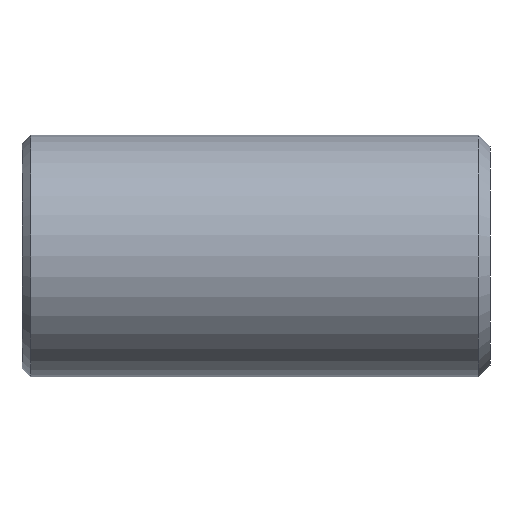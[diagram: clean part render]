
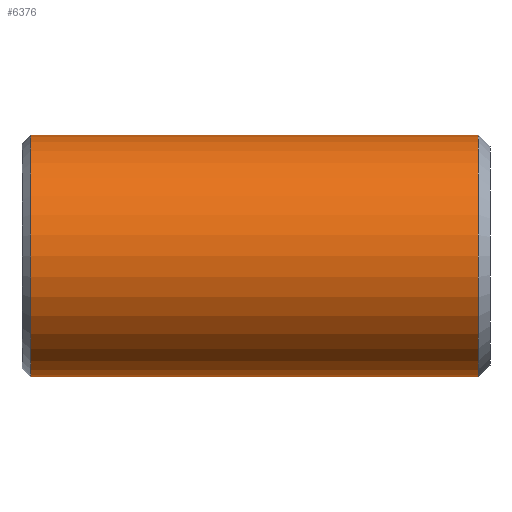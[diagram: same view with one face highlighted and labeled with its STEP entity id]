
A CAD part, front view. The second image highlights one B-rep face of the part: STEP entity #6376.
In plain terms, the highlighted cylindrical face has radius 6.2 mm (diameter 12.4 mm), a full revolution.
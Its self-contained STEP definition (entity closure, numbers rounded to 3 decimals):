
#43 = CONICAL_SURFACE('',#44,5.75,0.785);
#44 = AXIS2_PLACEMENT_3D('',#45,#46,#47);
#45 = CARTESIAN_POINT('',(84.375,0.,0.));
#46 = DIRECTION('',(1.,0.,0.));
#47 = DIRECTION('',(-0.,1.,0.));
#1135 = VERTEX_POINT('',#1136);
#1136 = CARTESIAN_POINT('',(84.825,6.2,0.));
#1157 = EDGE_CURVE('',#1135,#1135,#1158,.T.);
#1158 = SURFACE_CURVE('',#1159,(#1164,#1171),.PCURVE_S1.);
#1159 = CIRCLE('',#1160,6.2);
#1160 = AXIS2_PLACEMENT_3D('',#1161,#1162,#1163);
#1161 = CARTESIAN_POINT('',(84.825,0.,0.));
#1162 = DIRECTION('',(1.,0.,0.));
#1163 = DIRECTION('',(-0.,1.,0.));
#1164 = PCURVE('',#43,#1165);
#1165 = DEFINITIONAL_REPRESENTATION('',(#1166),#1170);
#1166 = LINE('',#1167,#1168);
#1167 = CARTESIAN_POINT('',(0.,0.45));
#1168 = VECTOR('',#1169,1.);
#1169 = DIRECTION('',(1.,0.));
#1170 = ( GEOMETRIC_REPRESENTATION_CONTEXT(2) 
PARAMETRIC_REPRESENTATION_CONTEXT() REPRESENTATION_CONTEXT('2D SPACE',''
  ) );
#1171 = PCURVE('',#1172,#1177);
#1172 = CYLINDRICAL_SURFACE('',#1173,6.2);
#1173 = AXIS2_PLACEMENT_3D('',#1174,#1175,#1176);
#1174 = CARTESIAN_POINT('',(84.825,0.,0.));
#1175 = DIRECTION('',(1.,0.,0.));
#1176 = DIRECTION('',(-0.,1.,0.));
#1177 = DEFINITIONAL_REPRESENTATION('',(#1178),#1182);
#1178 = LINE('',#1179,#1180);
#1179 = CARTESIAN_POINT('',(0.,0.));
#1180 = VECTOR('',#1181,1.);
#1181 = DIRECTION('',(1.,0.));
#1182 = ( GEOMETRIC_REPRESENTATION_CONTEXT(2) 
PARAMETRIC_REPRESENTATION_CONTEXT() REPRESENTATION_CONTEXT('2D SPACE',''
  ) );
#6376 = ADVANCED_FACE('',(#6377),#1172,.T.);
#6377 = FACE_BOUND('',#6378,.T.);
#6378 = EDGE_LOOP('',(#6379,#6380,#6403,#6430));
#6379 = ORIENTED_EDGE('',*,*,#1157,.T.);
#6380 = ORIENTED_EDGE('',*,*,#6381,.T.);
#6381 = EDGE_CURVE('',#1135,#6382,#6384,.T.);
#6382 = VERTEX_POINT('',#6383);
#6383 = CARTESIAN_POINT('',(107.775,6.2,0.));
#6384 = SEAM_CURVE('',#6385,(#6389,#6396),.PCURVE_S1.);
#6385 = LINE('',#6386,#6387);
#6386 = CARTESIAN_POINT('',(84.825,6.2,0.));
#6387 = VECTOR('',#6388,1.);
#6388 = DIRECTION('',(1.,0.,0.));
#6389 = PCURVE('',#1172,#6390);
#6390 = DEFINITIONAL_REPRESENTATION('',(#6391),#6395);
#6391 = LINE('',#6392,#6393);
#6392 = CARTESIAN_POINT('',(0.,0.));
#6393 = VECTOR('',#6394,1.);
#6394 = DIRECTION('',(0.,1.));
#6395 = ( GEOMETRIC_REPRESENTATION_CONTEXT(2) 
PARAMETRIC_REPRESENTATION_CONTEXT() REPRESENTATION_CONTEXT('2D SPACE',''
  ) );
#6396 = PCURVE('',#1172,#6397);
#6397 = DEFINITIONAL_REPRESENTATION('',(#6398),#6402);
#6398 = LINE('',#6399,#6400);
#6399 = CARTESIAN_POINT('',(6.283,0.));
#6400 = VECTOR('',#6401,1.);
#6401 = DIRECTION('',(0.,1.));
#6402 = ( GEOMETRIC_REPRESENTATION_CONTEXT(2) 
PARAMETRIC_REPRESENTATION_CONTEXT() REPRESENTATION_CONTEXT('2D SPACE',''
  ) );
#6403 = ORIENTED_EDGE('',*,*,#6404,.F.);
#6404 = EDGE_CURVE('',#6382,#6382,#6405,.T.);
#6405 = SURFACE_CURVE('',#6406,(#6411,#6418),.PCURVE_S1.);
#6406 = CIRCLE('',#6407,6.2);
#6407 = AXIS2_PLACEMENT_3D('',#6408,#6409,#6410);
#6408 = CARTESIAN_POINT('',(107.775,0.,0.));
#6409 = DIRECTION('',(1.,0.,0.));
#6410 = DIRECTION('',(-0.,1.,0.));
#6411 = PCURVE('',#1172,#6412);
#6412 = DEFINITIONAL_REPRESENTATION('',(#6413),#6417);
#6413 = LINE('',#6414,#6415);
#6414 = CARTESIAN_POINT('',(0.,22.95));
#6415 = VECTOR('',#6416,1.);
#6416 = DIRECTION('',(1.,0.));
#6417 = ( GEOMETRIC_REPRESENTATION_CONTEXT(2) 
PARAMETRIC_REPRESENTATION_CONTEXT() REPRESENTATION_CONTEXT('2D SPACE',''
  ) );
#6418 = PCURVE('',#6419,#6424);
#6419 = CONICAL_SURFACE('',#6420,6.2,0.785);
#6420 = AXIS2_PLACEMENT_3D('',#6421,#6422,#6423);
#6421 = CARTESIAN_POINT('',(107.775,0.,0.));
#6422 = DIRECTION('',(-1.,-0.,-0.));
#6423 = DIRECTION('',(-0.,1.,0.));
#6424 = DEFINITIONAL_REPRESENTATION('',(#6425),#6429);
#6425 = LINE('',#6426,#6427);
#6426 = CARTESIAN_POINT('',(-0.,-0.));
#6427 = VECTOR('',#6428,1.);
#6428 = DIRECTION('',(-1.,-0.));
#6429 = ( GEOMETRIC_REPRESENTATION_CONTEXT(2) 
PARAMETRIC_REPRESENTATION_CONTEXT() REPRESENTATION_CONTEXT('2D SPACE',''
  ) );
#6430 = ORIENTED_EDGE('',*,*,#6381,.F.);
